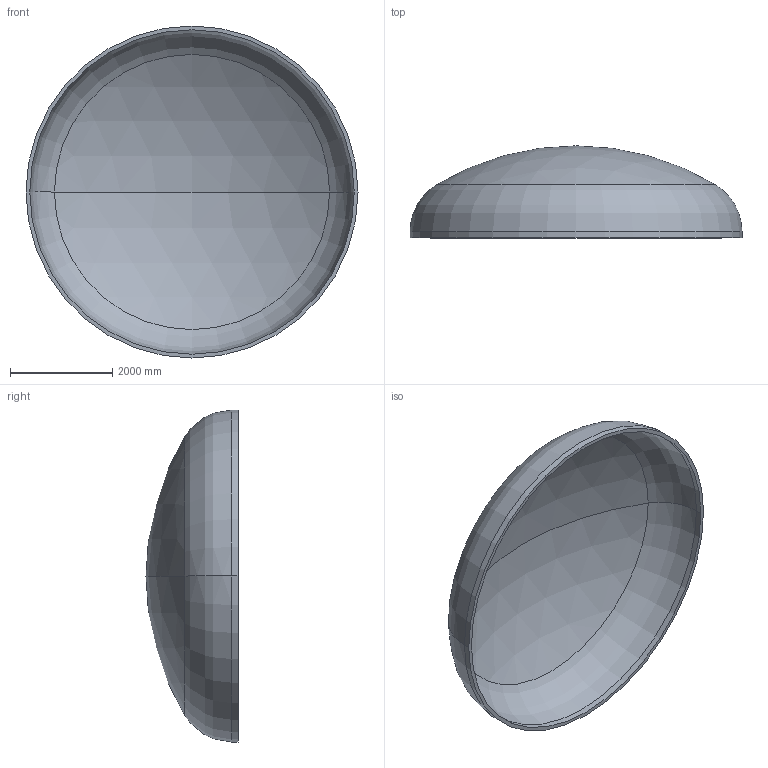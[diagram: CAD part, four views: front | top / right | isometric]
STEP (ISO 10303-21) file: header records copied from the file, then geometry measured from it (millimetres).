
FILE_DESCRIPTION (( 'STEP AP203' ), '1' );
FILE_NAME ('DIN 28013 Korbbogenform_-_Boden DIN 28013 - 6500 x 120 - I - s=74.step', '2016-07-04T10:43:09', ( '' ), ( '' ), 'SwSTEP 2.0', 'SolidWorks 2013', '' );
FILE_SCHEMA (( 'CONFIG_CONTROL_DESIGN' ));
Length unit declared in the file: millimetre
Products named in the file (1): DIN 28013 Korbbogenform_-_Boden DIN 28013 - 6500 x 120 - I - s=74
Bounding box: 6500 x 1801.64 x 6500 mm (x, y, z)
Volume: 3528693765.3 mm3; surface area: 96875437.1 mm2
Topology: 1 solids, 1 shells, 13 faces, 24 edges, 14 vertices
Faces by surface type: torus 4, cylinder 4, sphere 4, plane 1
Entity records: 407 total; most frequent: DIRECTION 72, CARTESIAN_POINT 52, ORIENTED_EDGE 48, AXIS2_PLACEMENT_3D 34, EDGE_CURVE 24, CIRCLE 20, VERTEX_POINT 14, EDGE_LOOP 14
